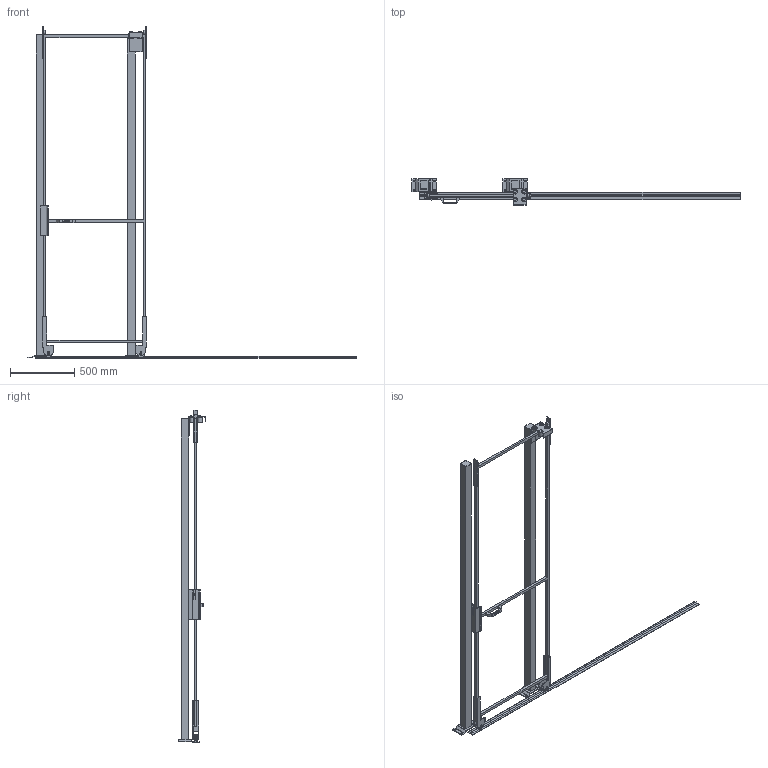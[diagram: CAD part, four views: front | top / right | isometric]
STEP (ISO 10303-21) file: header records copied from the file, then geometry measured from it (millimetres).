
FILE_DESCRIPTION(/* description */ (''),/* implementation_level */ '2;1');
FILE_NAME(/* name */ 'C:\SafeGuarding\ELABORATI\Drawing5_2025-05-05-13-36-53.stp',/* time_stamp */ '2025-05-05T13:36:56+02:00',/* author */ ('admin'),/* organization */ (''),/* preprocessor_version */ 'ST-DEVELOPER v18.1',/* originating_system */ 'AutoCAD Mechanical',/* authorisation */ '');
FILE_SCHEMA (('AUTOMOTIVE_DESIGN { 1 0 10303 214 3 1 1 }'));
Length unit declared in the file: millimetre
Products named in the file (3): Product; VFPA.REPE2008002400; P_VFMA.V260SDU.2520
Assembly tree (3 placements, depth 2):
  Product
    VFPA.REPE2008002400
    P_VFMA.V260SDU.2520  x2
Bounding box: 2561.01 x 210.01 x 2590 mm (x, y, z)
Volume: 23216482.1 mm3; surface area: 2937044.1 mm2
Topology: 29 solids, 40 shells, 321 faces, 1021 edges, 939 vertices
Faces by surface type: plane 275, cylinder 40, cone 4, sphere 2
Full cylindrical faces by diameter (mm): 9 x4, 11 x8, 13 x4, 18 x4, 30 x2, 36 x4, 58 x4
Entity records: 10487 total; most frequent: CARTESIAN_POINT 2229, DIRECTION 1601, ORIENTED_EDGE 1478, EDGE_CURVE 788, LINE 703, VECTOR 703, VERTEX_POINT 566, AXIS2_PLACEMENT_3D 449
